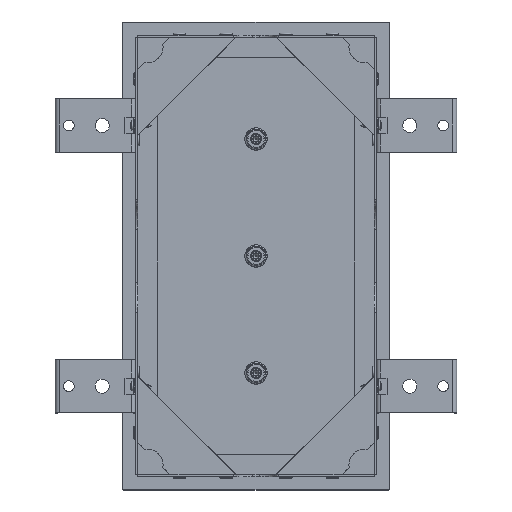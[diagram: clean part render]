
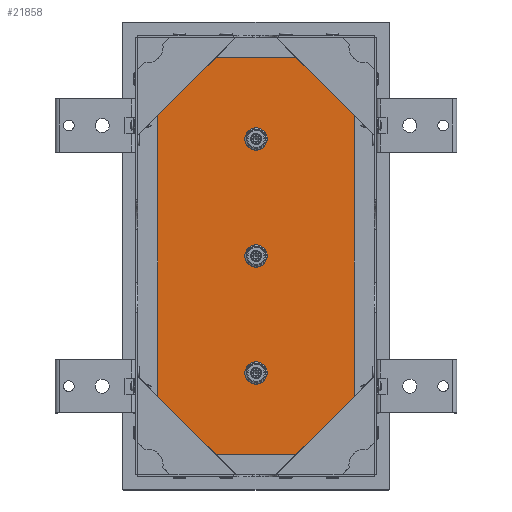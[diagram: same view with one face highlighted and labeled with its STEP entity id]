
A CAD part, top view. The second image highlights one B-rep face of the part: STEP entity #21858.
In plain terms, the highlighted planar face has unit normal (0, 0, 1).
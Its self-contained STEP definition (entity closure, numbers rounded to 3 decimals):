
#564=DIRECTION('',(1.,0.,0.));
#565=VECTOR('',#564,145.);
#566=CARTESIAN_POINT('',(-72.5,-148.5,2.));
#567=LINE('',#566,#565);
#568=CARTESIAN_POINT('',(-72.5,-147.5,2.));
#569=DIRECTION('',(0.,0.,-1.));
#570=DIRECTION('',(0.,-1.,0.));
#571=AXIS2_PLACEMENT_3D('',#568,#569,#570);
#573=DIRECTION('',(0.,-1.,0.));
#574=VECTOR('',#573,295.);
#575=CARTESIAN_POINT('',(-73.5,147.5,2.));
#576=LINE('',#575,#574);
#577=CARTESIAN_POINT('',(-72.5,147.5,2.));
#578=DIRECTION('',(0.,0.,-1.));
#579=DIRECTION('',(-1.,0.,0.));
#580=AXIS2_PLACEMENT_3D('',#577,#578,#579);
#582=DIRECTION('',(-1.,0.,0.));
#583=VECTOR('',#582,145.);
#584=CARTESIAN_POINT('',(72.5,148.5,2.));
#585=LINE('',#584,#583);
#586=CARTESIAN_POINT('',(72.5,147.5,2.));
#587=DIRECTION('',(0.,0.,-1.));
#588=DIRECTION('',(0.,1.,0.));
#589=AXIS2_PLACEMENT_3D('',#586,#587,#588);
#591=DIRECTION('',(0.,1.,0.));
#592=VECTOR('',#591,295.);
#593=CARTESIAN_POINT('',(73.5,-147.5,2.));
#594=LINE('',#593,#592);
#595=CARTESIAN_POINT('',(72.5,-147.5,2.));
#596=DIRECTION('',(0.,0.,-1.));
#597=DIRECTION('',(1.,0.,0.));
#598=AXIS2_PLACEMENT_3D('',#595,#596,#597);
#600=CARTESIAN_POINT('',(0.,0.,2.));
#601=DIRECTION('',(0.,0.,1.));
#602=DIRECTION('',(-1.,0.,0.));
#603=AXIS2_PLACEMENT_3D('',#600,#601,#602);
#605=CARTESIAN_POINT('',(0.,0.,2.));
#606=DIRECTION('',(0.,0.,1.));
#607=DIRECTION('',(1.,0.,0.));
#608=AXIS2_PLACEMENT_3D('',#605,#606,#607);
#610=CARTESIAN_POINT('',(0.,87.5,2.));
#611=DIRECTION('',(0.,0.,1.));
#612=DIRECTION('',(1.,0.,0.));
#613=AXIS2_PLACEMENT_3D('',#610,#611,#612);
#615=CARTESIAN_POINT('',(0.,87.5,2.));
#616=DIRECTION('',(0.,0.,1.));
#617=DIRECTION('',(-1.,0.,0.));
#618=AXIS2_PLACEMENT_3D('',#615,#616,#617);
#620=CARTESIAN_POINT('',(0.,-87.5,2.));
#621=DIRECTION('',(0.,0.,1.));
#622=DIRECTION('',(1.,0.,0.));
#623=AXIS2_PLACEMENT_3D('',#620,#621,#622);
#625=CARTESIAN_POINT('',(0.,-87.5,2.));
#626=DIRECTION('',(0.,0.,1.));
#627=DIRECTION('',(-1.,0.,0.));
#628=AXIS2_PLACEMENT_3D('',#625,#626,#627);
#18337=CARTESIAN_POINT('',(-8.5,0.,2.));
#18338=CARTESIAN_POINT('',(8.5,0.,2.));
#18339=VERTEX_POINT('',#18337);
#18340=VERTEX_POINT('',#18338);
#18341=CARTESIAN_POINT('',(8.5,87.5,2.));
#18342=CARTESIAN_POINT('',(-8.5,87.5,2.));
#18343=VERTEX_POINT('',#18341);
#18344=VERTEX_POINT('',#18342);
#18345=CARTESIAN_POINT('',(8.5,-87.5,2.));
#18346=CARTESIAN_POINT('',(-8.5,-87.5,2.));
#18347=VERTEX_POINT('',#18345);
#18348=VERTEX_POINT('',#18346);
#19525=CARTESIAN_POINT('',(-72.5,-148.5,2.));
#19526=CARTESIAN_POINT('',(72.5,-148.5,2.));
#19527=VERTEX_POINT('',#19525);
#19528=VERTEX_POINT('',#19526);
#19529=CARTESIAN_POINT('',(-73.5,-147.5,2.));
#19530=VERTEX_POINT('',#19529);
#19531=CARTESIAN_POINT('',(-73.5,147.5,2.));
#19532=VERTEX_POINT('',#19531);
#19533=CARTESIAN_POINT('',(-72.5,148.5,2.));
#19534=VERTEX_POINT('',#19533);
#19535=CARTESIAN_POINT('',(72.5,148.5,2.));
#19536=VERTEX_POINT('',#19535);
#19537=CARTESIAN_POINT('',(73.5,147.5,2.));
#19538=VERTEX_POINT('',#19537);
#19539=CARTESIAN_POINT('',(73.5,-147.5,2.));
#19540=VERTEX_POINT('',#19539);
#21819=CARTESIAN_POINT('',(0.,0.,2.));
#21820=DIRECTION('',(0.,0.,1.));
#21821=DIRECTION('',(0.,-1.,0.));
#21822=AXIS2_PLACEMENT_3D('',#21819,#21820,#21821);
#21823=PLANE('',#21822);
#21825=ORIENTED_EDGE('',*,*,#21824,.F.);
#21827=ORIENTED_EDGE('',*,*,#21826,.T.);
#21829=ORIENTED_EDGE('',*,*,#21828,.F.);
#21831=ORIENTED_EDGE('',*,*,#21830,.T.);
#21833=ORIENTED_EDGE('',*,*,#21832,.F.);
#21835=ORIENTED_EDGE('',*,*,#21834,.T.);
#21837=ORIENTED_EDGE('',*,*,#21836,.F.);
#21839=ORIENTED_EDGE('',*,*,#21838,.T.);
#21840=EDGE_LOOP('',(#21825,#21827,#21829,#21831,#21833,#21835,#21837,#21839));
#21841=FACE_OUTER_BOUND('',#21840,.F.);
#21842=ORIENTED_EDGE('',*,*,#21799,.T.);
#21843=ORIENTED_EDGE('',*,*,#21813,.T.);
#21844=EDGE_LOOP('',(#21842,#21843));
#21845=FACE_BOUND('',#21844,.F.);
#21847=ORIENTED_EDGE('',*,*,#21846,.T.);
#21849=ORIENTED_EDGE('',*,*,#21848,.T.);
#21850=EDGE_LOOP('',(#21847,#21849));
#21851=FACE_BOUND('',#21850,.F.);
#21853=ORIENTED_EDGE('',*,*,#21852,.T.);
#21855=ORIENTED_EDGE('',*,*,#21854,.T.);
#21856=EDGE_LOOP('',(#21853,#21855));
#21857=FACE_BOUND('',#21856,.F.);
#21858=ADVANCED_FACE('',(#21841,#21845,#21851,#21857),#21823,.T.);
#572=CIRCLE('',#571,1.);
#581=CIRCLE('',#580,1.);
#590=CIRCLE('',#589,1.);
#599=CIRCLE('',#598,1.);
#604=CIRCLE('',#603,8.5);
#609=CIRCLE('',#608,8.5);
#614=CIRCLE('',#613,8.5);
#619=CIRCLE('',#618,8.5);
#624=CIRCLE('',#623,8.5);
#629=CIRCLE('',#628,8.5);
#21799=EDGE_CURVE('',#18339,#18340,#604,.T.);
#21813=EDGE_CURVE('',#18340,#18339,#609,.T.);
#21824=EDGE_CURVE('',#19527,#19528,#567,.T.);
#21826=EDGE_CURVE('',#19527,#19530,#572,.T.);
#21828=EDGE_CURVE('',#19532,#19530,#576,.T.);
#21830=EDGE_CURVE('',#19532,#19534,#581,.T.);
#21832=EDGE_CURVE('',#19536,#19534,#585,.T.);
#21834=EDGE_CURVE('',#19536,#19538,#590,.T.);
#21836=EDGE_CURVE('',#19540,#19538,#594,.T.);
#21838=EDGE_CURVE('',#19540,#19528,#599,.T.);
#21846=EDGE_CURVE('',#18343,#18344,#614,.T.);
#21848=EDGE_CURVE('',#18344,#18343,#619,.T.);
#21852=EDGE_CURVE('',#18347,#18348,#624,.T.);
#21854=EDGE_CURVE('',#18348,#18347,#629,.T.);
